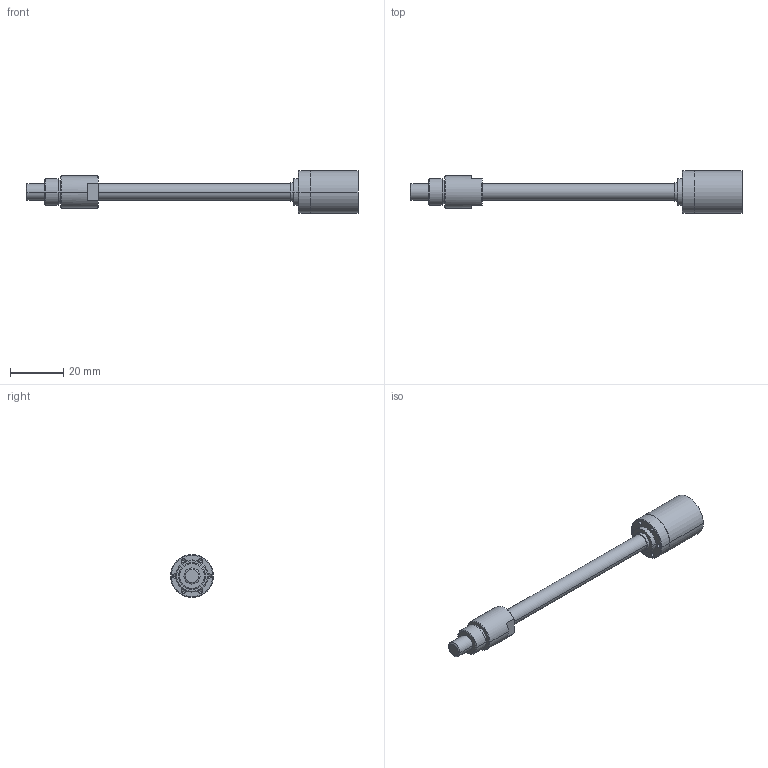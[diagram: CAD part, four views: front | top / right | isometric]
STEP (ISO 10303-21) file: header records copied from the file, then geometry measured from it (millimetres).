
FILE_DESCRIPTION((''),'2;1');
FILE_NAME('424232_GP16S_M-1ST','2016-10-05T',('mmagpetk'),(''),'CREO PARAMETRIC BY PTC INC, 2016050','CREO PARAMETRIC BY PTC INC, 2016050','');
FILE_SCHEMA(('CONFIG_CONTROL_DESIGN'));
Length unit declared in the file: millimetre
Products named in the file (1): 424232_GP16S_M-1ST
Bounding box: 124.3 x 16 x 16 mm (x, y, z)
Volume: 8504.6 mm3; surface area: 4527.8 mm2
Topology: 1 solids, 1 shells, 95 faces, 206 edges, 122 vertices
Faces by surface type: cylinder 44, cone 28, plane 21, torus 2
Entity records: 4358 total; most frequent: CARTESIAN_POINT 521, DIRECTION 484, ORIENTED_EDGE 388, PRESENTATION_STYLE_ASSIGNMENT 282, AXIS2_PLACEMENT_3D 203, STYLED_ITEM 195, CURVE_STYLE 194, EDGE_CURVE 194
